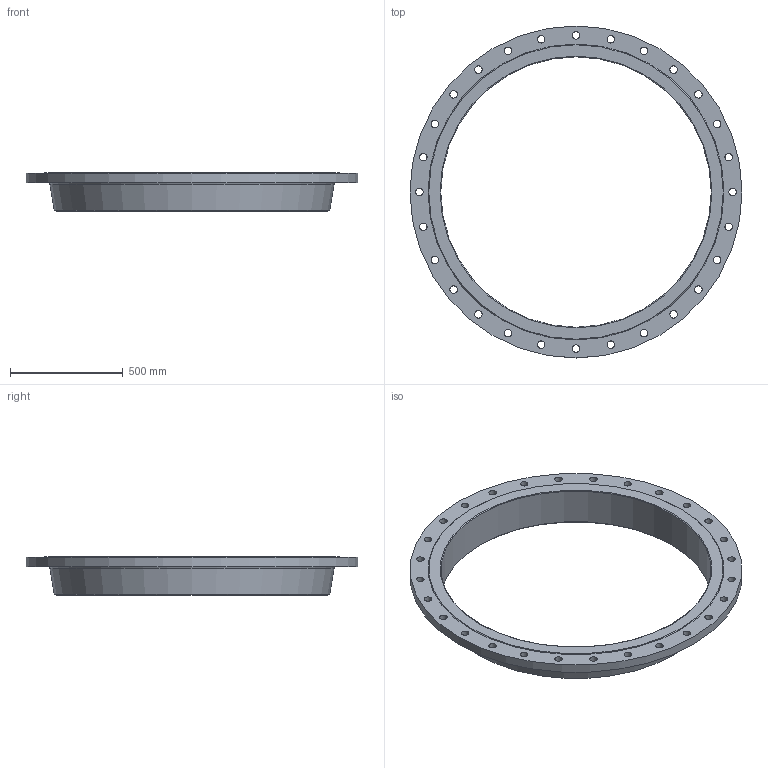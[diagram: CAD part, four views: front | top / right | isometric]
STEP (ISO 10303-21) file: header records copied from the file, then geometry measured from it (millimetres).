
FILE_DESCRIPTION(/* description */ (''),/* implementation_level */ '2;1');
FILE_NAME(/* name */ 'C:\Users\D\Documents\Inventor\HP\JIS\フランジ\水道用フランジF12\RF\ffws_rf_1200_1.stp',/* time_stamp */ '2024-08-28T10:14:49+09:00',/* author */ ('D'),/* organization */ (''),/* preprocessor_version */ 'ST-DEVELOPER v18',/* originating_system */ 'Autodesk Inventor 2020',/* authorisation */ '');
FILE_SCHEMA (('AUTOMOTIVE_DESIGN { 1 0 10303 214 3 1 1 }'));
Length unit declared in the file: millimetre
Products named in the file (1): ffws_rf_80
Bounding box: 1470 x 1470 x 170 mm (x, y, z)
Volume: 32762900.7 mm3; surface area: 2432219.3 mm2
Topology: 1 solids, 1 shells, 39 faces, 138 edges, 103 vertices
Faces by surface type: cylinder 30, plane 4, cone 3, torus 2
Full cylindrical faces by diameter (mm): 33 x28, 1197.2 x1, 1470 x1
Entity records: 1758 total; most frequent: DIRECTION 323, CARTESIAN_POINT 281, ORIENTED_EDGE 276, AXIS2_PLACEMENT_3D 145, EDGE_CURVE 138, CIRCLE 105, VERTEX_POINT 103, EDGE_LOOP 99
